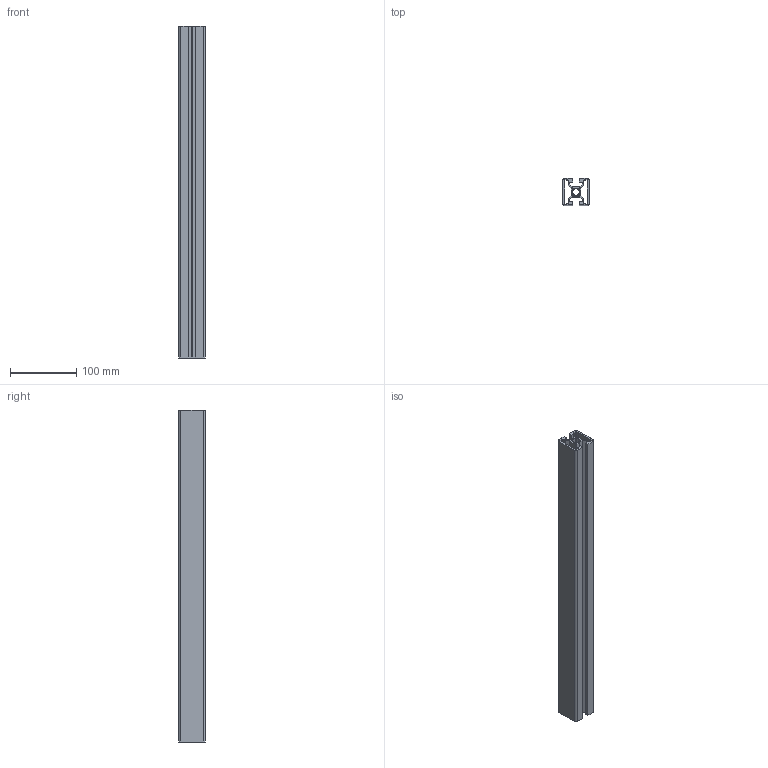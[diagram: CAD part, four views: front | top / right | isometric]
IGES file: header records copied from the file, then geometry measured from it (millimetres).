
Start section: SolidWorks IGES file using analytic representation for surfaces
Global section: file name: C:\Documents and Settings\Administrator\デスクトップ\指定保存後3回目\SolidWorks\SF\SF40・45\Frame\SFF-FH04.IGS; native system: SolidWorks 2006 by SolidWorks Corporation; preprocessor: SolidWorks 2006 by SolidWorks Corporation; author: Administrator; date: 061213.113820; units: millimetre
Bounding box: 40 x 40 x 500 mm (x, y, z)
Surface area: 231298.3 mm2 (no closed solid volume)
Topology: 0 solids, 0 shells, 117 faces, 1577 edges, 1922 vertices
Faces by surface type: bspline 60, revolution 57
